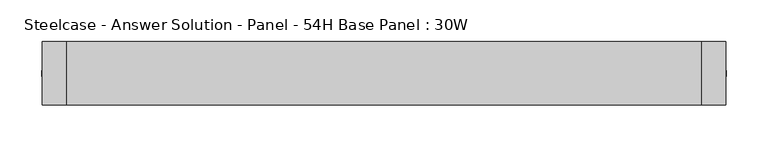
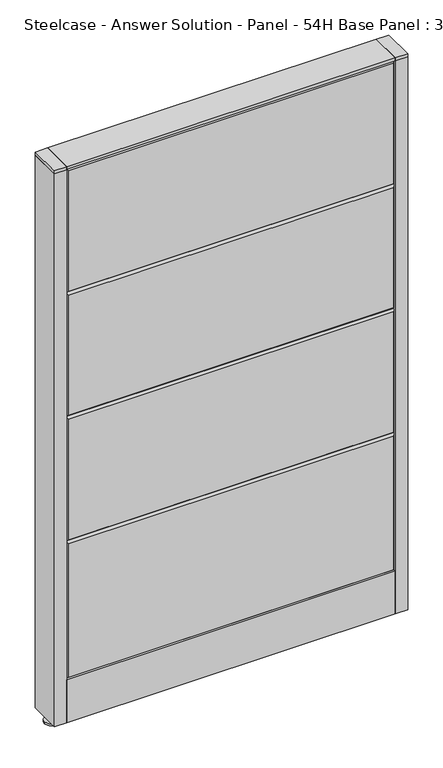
"""IFC4 building model written with IfcOpenShell, lengths in millimetres: furniture geometry, Steelcase - Answer Solution - Panel - 54H Base Panel : 30W."""

from ifc_helpers import new_model, si_unit, point, frame, frame_2d, origin, place, context, project, spatial, polyline, circle_curve, trimmed, segment, composite_curve, outline, extrude, faceted_brep, source, transform, mapped, element, save


def steelcase_answer_solution_panel_54h_base_panel_30w_8d74ef12(model_context):
    return source(origin(), model_context, "Body", "SolidModel", [
        extrude(outline(composite_curve([segment(trimmed(circle_curve(frame_2d((395.224, 0.0320214)), 5.08), [point((400.304, 0.0320214))], [point((390.144, 0.0320214))], False, "CARTESIAN"), True, "CONTINUOUS"), segment(trimmed(circle_curve(frame_2d((395.224, 0.0320214)), 5.08), [point((390.144, 0.0320214))], [point((400.304, 0.0320214))], False, "CARTESIAN"), True, "CONTINUOUS")], self_intersect=False)), frame((0.0, 0.0, 5.0799671), z_axis=(0.0, 0.0, 1.0), x_axis=(1.0, 0.0, 0.0)), (0.0, 0.0, 1.0), 10.414),
        extrude(outline(composite_curve([segment(trimmed(circle_curve(frame_2d((395.224, 0.0320214)), 15.24), [point((410.464, 0.0320214))], [point((379.984, 0.0320214))], False, "CARTESIAN"), True, "CONTINUOUS"), segment(trimmed(circle_curve(frame_2d((395.224, 0.0320214)), 15.24), [point((379.984, 0.0320214))], [point((410.464, 0.0320214))], False, "CARTESIAN"), True, "CONTINUOUS")], self_intersect=False)), frame((0.0, 0.0, -3.29e-05), z_axis=(0.0, 0.0, 1.0), x_axis=(1.0, 0.0, 0.0)), (0.0, 0.0, 1.0), 5.08),
        extrude(outline(polyline([(409.575, 38.1320408), (409.575, -38.0679592), (381.0, -38.0679592), (381.0, 38.1320408), (409.575, 38.1320408)])), frame((0.0, 0.0, 1370.6348), z_axis=(0.0, 0.0, 1.0), x_axis=(1.0, 0.0, 0.0)), (0.0, 0.0, 1.0), 7.3151671),
        extrude(outline(polyline([(409.575, 38.1320408), (409.575, -38.0679592), (381.0, -38.0679592), (381.0, 38.1320408), (409.575, 38.1320408)])), frame((0.0, 0.0, 15.4939671), z_axis=(0.0, 0.0, 1.0), x_axis=(1.0, 0.0, 0.0)), (0.0, 0.0, 1.0), 1355.1408329),
        extrude(outline(composite_curve([segment(trimmed(circle_curve(frame_2d((-395.224, 0.0320214)), 5.08), [point((-400.304, 0.0320214))], [point((-390.144, 0.0320214))], False, "CARTESIAN"), True, "CONTINUOUS"), segment(trimmed(circle_curve(frame_2d((-395.224, 0.0320214)), 5.08), [point((-390.144, 0.0320214))], [point((-400.304, 0.0320214))], False, "CARTESIAN"), True, "CONTINUOUS")], self_intersect=False)), frame((0.0, 0.0, 5.0799671), z_axis=(0.0, 0.0, 1.0), x_axis=(1.0, 0.0, 0.0)), (0.0, 0.0, 1.0), 10.414),
        extrude(outline(composite_curve([segment(trimmed(circle_curve(frame_2d((-395.224, 0.0320214)), 15.24), [point((-410.464, 0.0320214))], [point((-379.984, 0.0320214))], False, "CARTESIAN"), True, "CONTINUOUS"), segment(trimmed(circle_curve(frame_2d((-395.224, 0.0320214)), 15.24), [point((-379.984, 0.0320214))], [point((-410.464, 0.0320214))], False, "CARTESIAN"), True, "CONTINUOUS")], self_intersect=False)), frame((0.0, 0.0, -3.29e-05), z_axis=(0.0, 0.0, 1.0), x_axis=(1.0, 0.0, 0.0)), (0.0, 0.0, 1.0), 5.08),
        extrude(outline(polyline([(-409.575, 38.1320408), (-381.0, 38.1320408), (-381.0, -38.0679592), (-409.575, -38.0679592), (-409.575, 38.1320408)])), frame((0.0, 0.0, 1370.6348), z_axis=(0.0, 0.0, 1.0), x_axis=(1.0, 0.0, 0.0)), (0.0, 0.0, 1.0), 7.3151671),
        extrude(outline(polyline([(-409.575, 38.1320408), (-381.0, 38.1320408), (-381.0, -38.0679592), (-409.575, -38.0679592), (-409.575, 38.1320408)])), frame((0.0, 0.0, 15.4939671), z_axis=(0.0, 0.0, 1.0), x_axis=(1.0, 0.0, 0.0)), (0.0, 0.0, 1.0), 1355.1408329),
        faceted_brep([(-376.174, 38.1635011, 1366.774), (376.174, 38.1635011, 1366.774), (376.174, 38.1635011, 1071.626), (-376.174, 38.1635011, 1071.626), (-381.0, 33.3375011, 1371.6), (-381.0, 33.3375011, 1066.8), (381.0, 33.3375011, 1066.8), (381.0, 33.3375011, 1371.6)], [[[0, 1, 2, 3]], [[4, 5, 6, 7]], [[4, 7, 1, 0]], [[7, 6, 2, 1]], [[6, 5, 3, 2]], [[5, 4, 0, 3]]]),
        faceted_brep([(-376.174, 38.1635011, 1061.974), (376.174, 38.1635011, 1061.974), (376.174, 38.1635011, 766.826), (-376.174, 38.1635011, 766.826), (-381.0, 33.3375011, 1066.8), (-381.0, 33.3375011, 762.0), (381.0, 33.3375011, 762.0), (381.0, 33.3375011, 1066.8)], [[[0, 1, 2, 3]], [[4, 5, 6, 7]], [[4, 7, 1, 0]], [[7, 6, 2, 1]], [[6, 5, 3, 2]], [[5, 4, 0, 3]]]),
        faceted_brep([(-376.174, 38.1635011, 757.174), (376.174, 38.1635011, 757.174), (376.174, 38.1635011, 462.026), (-376.174, 38.1635011, 462.026), (-381.0, 33.3375011, 762.0), (-381.0, 33.3375011, 457.2), (381.0, 33.3375011, 457.2), (381.0, 33.3375011, 762.0)], [[[0, 1, 2, 3]], [[4, 5, 6, 7]], [[4, 7, 1, 0]], [[7, 6, 2, 1]], [[6, 5, 3, 2]], [[5, 4, 0, 3]]]),
        faceted_brep([(-376.174, 38.1635011, 452.374), (376.174, 38.1635011, 452.374), (376.174, 38.1635011, 125.476), (-376.174, 38.1635011, 125.476), (-381.0, 33.3375011, 457.2), (-381.0, 33.3375011, 120.65), (381.0, 33.3375011, 120.65), (381.0, 33.3375011, 457.2)], [[[0, 1, 2, 3]], [[4, 5, 6, 7]], [[4, 7, 1, 0]], [[7, 6, 2, 1]], [[6, 5, 3, 2]], [[5, 4, 0, 3]]]),
        faceted_brep([(376.174, -38.1635011, 1366.774), (-376.174, -38.1635011, 1366.774), (-376.174, -38.1635011, 1071.626), (376.174, -38.1635011, 1071.626), (381.0, -33.3375011, 1371.6), (381.0, -33.3375011, 1066.8), (-381.0, -33.3375011, 1066.8), (-381.0, -33.3375011, 1371.6)], [[[0, 1, 2, 3]], [[4, 5, 6, 7]], [[4, 7, 1, 0]], [[7, 6, 2, 1]], [[6, 5, 3, 2]], [[5, 4, 0, 3]]]),
        faceted_brep([(376.174, -38.1635011, 1061.974), (-376.174, -38.1635011, 1061.974), (-376.174, -38.1635011, 766.826), (376.174, -38.1635011, 766.826), (381.0, -33.3375011, 1066.8), (381.0, -33.3375011, 762.0), (-381.0, -33.3375011, 762.0), (-381.0, -33.3375011, 1066.8)], [[[0, 1, 2, 3]], [[4, 5, 6, 7]], [[4, 7, 1, 0]], [[7, 6, 2, 1]], [[6, 5, 3, 2]], [[5, 4, 0, 3]]]),
        faceted_brep([(376.174, -38.1635011, 757.174), (-376.174, -38.1635011, 757.174), (-376.174, -38.1635011, 462.026), (376.174, -38.1635011, 462.026), (381.0, -33.3375011, 762.0), (381.0, -33.3375011, 457.2), (-381.0, -33.3375011, 457.2), (-381.0, -33.3375011, 762.0)], [[[0, 1, 2, 3]], [[4, 5, 6, 7]], [[4, 7, 1, 0]], [[7, 6, 2, 1]], [[6, 5, 3, 2]], [[5, 4, 0, 3]]]),
        faceted_brep([(376.174, -38.1635011, 452.374), (-376.174, -38.1635011, 452.374), (-376.174, -38.1635011, 125.476), (376.174, -38.1635011, 125.476), (381.0, -33.3375011, 457.2), (381.0, -33.3375011, 120.65), (-381.0, -33.3375011, 120.65), (-381.0, -33.3375011, 457.2)], [[[0, 1, 2, 3]], [[4, 5, 6, 7]], [[4, 7, 1, 0]], [[7, 6, 2, 1]], [[6, 5, 3, 2]], [[5, 4, 0, 3]]]),
        extrude(outline(polyline([(381.0, 38.1000194), (381.0, -38.1000194), (-381.0, -38.1000194), (-381.0, 38.1000194), (381.0, 38.1000194)])), frame((0.0, 0.0, 1371.6), z_axis=(0.0, 0.0, 1.0), x_axis=(1.0, 0.0, 0.0)), (0.0, 0.0, 1.0), 6.35),
        extrude(outline(polyline([(25.4000011, 119.8575157), (25.4000011, 120.65), (38.1000194, 120.65), (38.1000194, 15.494), (37.3075215, 15.494), (37.3075215, 119.8575157), (25.4000011, 119.8575157)])), frame((-381.0, 0.0, 0.0), z_axis=(1.0, 0.0, 0.0), x_axis=(0.0, 1.0, 0.0)), (0.0, 0.0, 1.0), 762.0),
        extrude(outline(polyline([(-25.4000011, 119.8575157), (-37.3075215, 119.8575157), (-37.3075215, 15.494), (-38.1000194, 15.494), (-38.1000194, 120.65), (-25.4000011, 120.65), (-25.4000011, 119.8575157)])), frame((-381.0, 0.0, 0.0), z_axis=(1.0, 0.0, 0.0), x_axis=(0.0, 1.0, 0.0)), (0.0, 0.0, 1.0), 762.0),
    ])


if __name__ == "__main__":
    model = new_model("IFC4")
    model_context = context("Model", 3, world=origin())
    ifc_project = project(units=[si_unit("LENGTHUNIT", "METRE", prefix="MILLI")], contexts=[model_context])
    site = spatial("IfcSite", under=ifc_project)
    building = spatial("IfcBuilding", under=site)
    placement = place(None, origin())
    steelcase_answer_solution_panel_54h_base_panel_30w_shape = steelcase_answer_solution_panel_54h_base_panel_30w_8d74ef12(model_context)
    element("IfcFurniture", 1, ObjectType="Steelcase - Answer Solution - Panel - 54H Base Panel : 30W", at=placement, inside=building, context=model_context, shape_type="MappedRepresentation", body=[
        mapped(steelcase_answer_solution_panel_54h_base_panel_30w_shape, transform((0.0, 0.0, 0.0), x_axis=(1.0, 0.0, 0.0), y_axis=(0.0, 1.0, 0.0), z_axis=(0.0, 0.0, 1.0))),
    ])
    save(model, "model.ifc")
